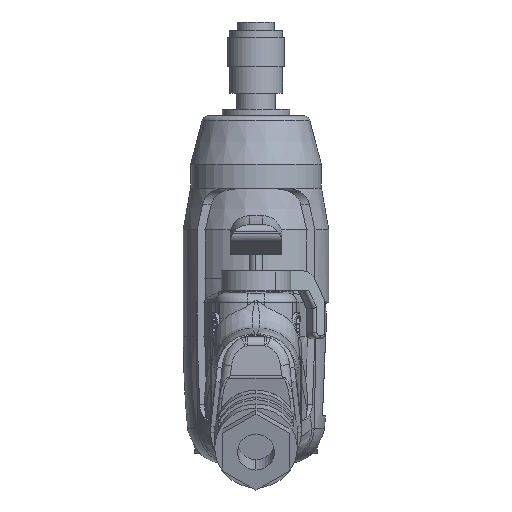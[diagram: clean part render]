
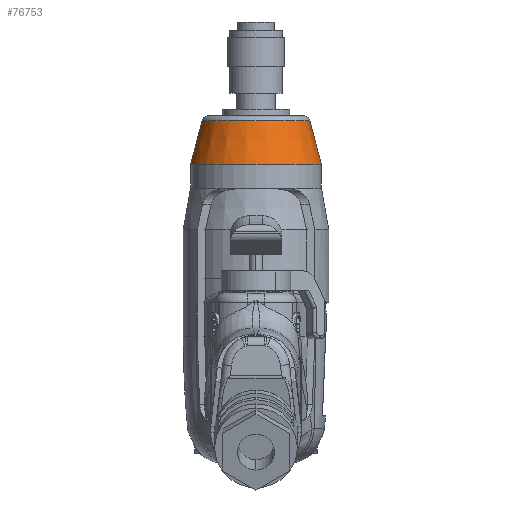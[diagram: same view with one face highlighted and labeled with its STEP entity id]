
A CAD part, front view. The second image highlights one B-rep face of the part: STEP entity #76753.
In plain terms, the highlighted conical face has half-angle 15 degrees and reference radius 16.221 mm.
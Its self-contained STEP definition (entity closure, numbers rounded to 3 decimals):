
#6803 = CARTESIAN_POINT ( 'NONE',  ( -16.618, 0., -21.182 ) ) ;
#10502 = CARTESIAN_POINT ( 'NONE',  ( 16.618, 0., -21.182 ) ) ;
#10503 = DIRECTION ( 'NONE',  ( 1., 0., 0. ) ) ;
#10504 = DIRECTION ( 'NONE',  ( 0., 0., -1. ) ) ;
#10505 = CARTESIAN_POINT ( 'NONE',  ( 0., 0., -21.182 ) ) ;
#10506 = AXIS2_PLACEMENT_3D ( 'NONE', #10505, #10504, #10503 ) ;
#10507 = CIRCLE ( 'NONE', #10506, 16.618 ) ;
#10778 = ORIENTED_EDGE ( 'NONE', *, *, #75061, .T. ) ;
#11392 = CARTESIAN_POINT ( 'NONE',  ( -20.25, 0., -34.737 ) ) ;
#11696 = LINE ( 'NONE', #11753, #11752 ) ;
#11751 = DIRECTION ( 'NONE',  ( 0.259, 0., -0.966 ) ) ;
#11752 = VECTOR ( 'NONE', #11751, 1000. ) ;
#11753 = CARTESIAN_POINT ( 'NONE',  ( 16.221, 0., -19.7 ) ) ;
#11806 = DIRECTION ( 'NONE',  ( -0.259, 0., -0.966 ) ) ;
#11807 = VECTOR ( 'NONE', #11806, 1000. ) ;
#11808 = CARTESIAN_POINT ( 'NONE',  ( -16.221, 0., -19.7 ) ) ;
#11809 = LINE ( 'NONE', #11808, #11807 ) ;
#11896 = CARTESIAN_POINT ( 'NONE',  ( 20.25, 0., -34.737 ) ) ;
#12163 = ORIENTED_EDGE ( 'NONE', *, *, #74690, .T. ) ;
#24247 = DIRECTION ( 'NONE',  ( 1., 0., 0. ) ) ;
#24248 = DIRECTION ( 'NONE',  ( 0., 0., 1. ) ) ;
#24249 = CARTESIAN_POINT ( 'NONE',  ( 0., 0., -34.737 ) ) ;
#24250 = AXIS2_PLACEMENT_3D ( 'NONE', #24249, #24248, #24247 ) ;
#24251 = CIRCLE ( 'NONE', #24250, 20.25 ) ;
#24356 = CONICAL_SURFACE ( 'NONE', #24399, 16.221, 0.262 ) ;
#24360 = FACE_OUTER_BOUND ( 'NONE', #76754, .T. ) ;
#24396 = DIRECTION ( 'NONE',  ( -1., 0., 0. ) ) ;
#24397 = DIRECTION ( 'NONE',  ( 0., 0., -1. ) ) ;
#24398 = CARTESIAN_POINT ( 'NONE',  ( 0., 0., -19.7 ) ) ;
#24399 = AXIS2_PLACEMENT_3D ( 'NONE', #24398, #24397, #24396 ) ;
#74636 = VERTEX_POINT ( 'NONE', #6803 ) ;
#74690 = EDGE_CURVE ( 'NONE', #74691, #74636, #10507, .T. ) ;
#74691 = VERTEX_POINT ( 'NONE', #10502 ) ;
#74973 = VERTEX_POINT ( 'NONE', #11392 ) ;
#75026 = EDGE_CURVE ( 'NONE', #74691, #75095, #11696, .T. ) ;
#75061 = EDGE_CURVE ( 'NONE', #74636, #74973, #11809, .T. ) ;
#75095 = VERTEX_POINT ( 'NONE', #11896 ) ;
#76678 = ORIENTED_EDGE ( 'NONE', *, *, #76679, .T. ) ;
#76679 = EDGE_CURVE ( 'NONE', #74973, #75095, #24251, .T. ) ;
#76753 = ADVANCED_FACE ( 'NONE', ( #24360 ), #24356, .T. ) ;
#76754 = EDGE_LOOP ( 'NONE', ( #76756, #12163, #10778, #76678 ) ) ;
#76756 = ORIENTED_EDGE ( 'NONE', *, *, #75026, .F. ) ;
